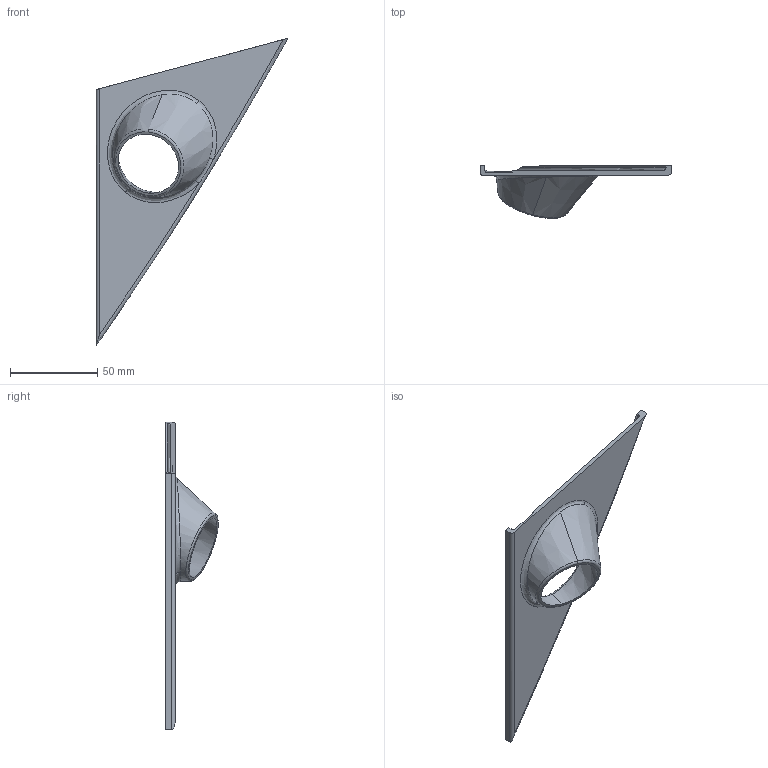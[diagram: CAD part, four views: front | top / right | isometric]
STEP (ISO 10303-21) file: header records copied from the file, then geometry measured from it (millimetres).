
FILE_DESCRIPTION (( 'STEP AP214' ), '1' );
FILE_NAME ('tweeter36mm.STEP', '2021-01-03T14:40:59', ( '' ), ( '' ), 'SwSTEP 2.0', 'SolidWorks 2018', '' );
FILE_SCHEMA (( 'AUTOMOTIVE_DESIGN' ));
Length unit declared in the file: millimetre
Products named in the file (1): tweeter36mm
Bounding box: 110.12 x 30.17 x 176.51 mm (x, y, z)
Volume: 26917.8 mm3; surface area: 21020.9 mm2
Topology: 1 solids, 1 shells, 31 faces, 85 edges, 55 vertices
Faces by surface type: plane 13, bspline 6, torus 4, cone 4, cylinder 4
Entity records: 1765 total; most frequent: CARTESIAN_POINT 1015, ORIENTED_EDGE 170, DIRECTION 129, EDGE_CURVE 85, VERTEX_POINT 55, AXIS2_PLACEMENT_3D 49, EDGE_LOOP 32, LINE 31
